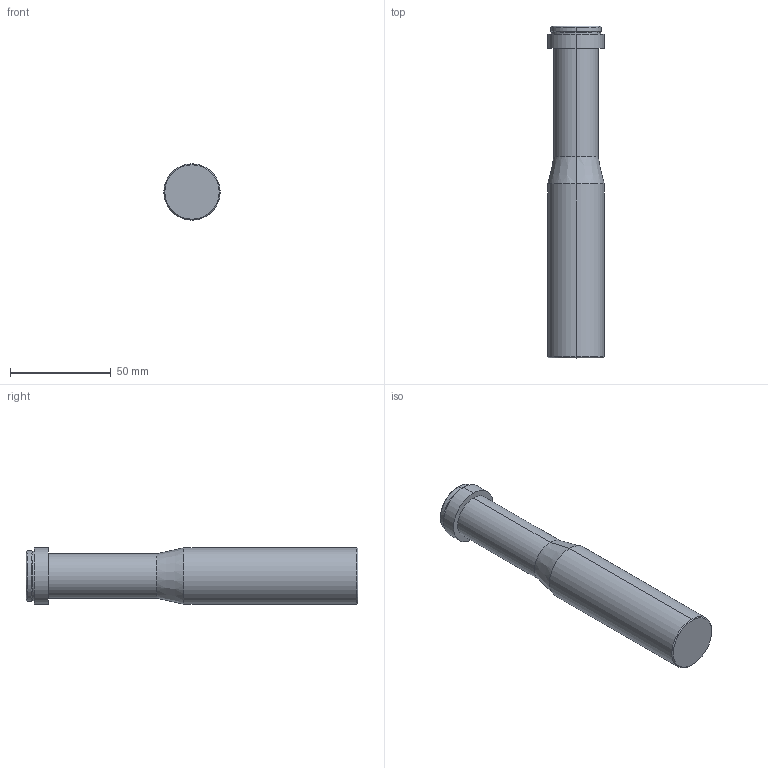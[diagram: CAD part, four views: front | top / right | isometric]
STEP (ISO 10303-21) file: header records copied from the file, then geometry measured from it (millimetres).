
FILE_DESCRIPTION (( 'STEP AP203' ), '1' );
FILE_NAME ('dh510-05f28x-od.STEP', '2024-01-02T07:41:05', ( 'xtzj' ), ( '' ), 'SwSTEP 2.0', 'SolidWorks 2019', '' );
FILE_SCHEMA (( 'CONFIG_CONTROL_DESIGN' ));
Length unit declared in the file: millimetre
Products named in the file (1): dh510-05f28x-od
Bounding box: 28 x 165 x 28 mm (x, y, z)
Volume: 86717.3 mm3; surface area: 14831 mm2
Topology: 1 solids, 1 shells, 22 faces, 42 edges, 24 vertices
Faces by surface type: cylinder 10, cone 8, plane 4
Entity records: 631 total; most frequent: DIRECTION 112, CARTESIAN_POINT 89, ORIENTED_EDGE 84, AXIS2_PLACEMENT_3D 47, EDGE_CURVE 42, CIRCLE 24, EDGE_LOOP 24, VERTEX_POINT 24
